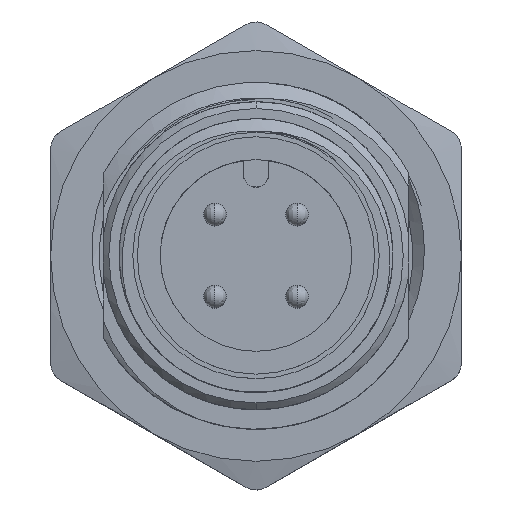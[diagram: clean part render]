
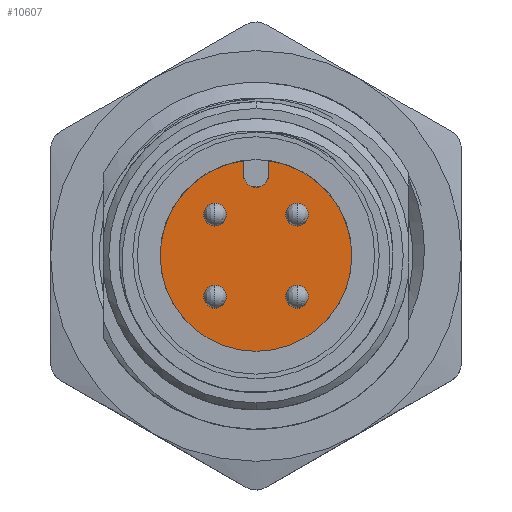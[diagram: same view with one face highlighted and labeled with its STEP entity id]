
A CAD part, top view. The second image highlights one B-rep face of the part: STEP entity #10607.
In plain terms, the highlighted planar face has unit normal (0, 0, 1).
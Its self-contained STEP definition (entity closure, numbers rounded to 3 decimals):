
#25 = VERTEX_POINT ( 'NONE', #22994 ) ;
#81 = CIRCLE ( 'NONE', #12843, 4.2 ) ;
#483 = VECTOR ( 'NONE', #19175, 1000. ) ;
#708 = VERTEX_POINT ( 'NONE', #14705 ) ;
#967 = ORIENTED_EDGE ( 'NONE', *, *, #20445, .T. ) ;
#1087 = DIRECTION ( 'NONE',  ( -1., 0., 0. ) ) ;
#1120 = CARTESIAN_POINT ( 'NONE',  ( 1.8, -2.3, -9. ) ) ;
#1404 = ORIENTED_EDGE ( 'NONE', *, *, #20775, .T. ) ;
#1571 = FACE_BOUND ( 'NONE', #20548, .T. ) ;
#1851 = AXIS2_PLACEMENT_3D ( 'NONE', #11173, #15056, #12857 ) ;
#1947 = DIRECTION ( 'NONE',  ( 1., 0., 0. ) ) ;
#2180 = AXIS2_PLACEMENT_3D ( 'NONE', #21451, #19386, #19646 ) ;
#2327 = CARTESIAN_POINT ( 'NONE',  ( -1.8, 1.8, -9. ) ) ;
#2399 = ORIENTED_EDGE ( 'NONE', *, *, #9823, .T. ) ;
#2737 = DIRECTION ( 'NONE',  ( 1., 0., 0. ) ) ;
#2913 = EDGE_LOOP ( 'NONE', ( #967, #18720, #7386, #1404, #23519 ) ) ;
#3146 = VERTEX_POINT ( 'NONE', #1120 ) ;
#3384 = CARTESIAN_POINT ( 'NONE',  ( 0., 3.55, -9. ) ) ;
#3487 = CARTESIAN_POINT ( 'NONE',  ( 0.55, 4.164, -9. ) ) ;
#3918 = DIRECTION ( 'NONE',  ( -1., 0., 0. ) ) ;
#3919 = CIRCLE ( 'NONE', #21627, 0.5 ) ;
#4378 = EDGE_CURVE ( 'NONE', #22878, #3146, #3919, .T. ) ;
#4688 = VERTEX_POINT ( 'NONE', #5061 ) ;
#5057 = CIRCLE ( 'NONE', #5879, 0.5 ) ;
#5061 = CARTESIAN_POINT ( 'NONE',  ( 1.8, 2.3, -9. ) ) ;
#5079 = AXIS2_PLACEMENT_3D ( 'NONE', #2327, #22186, #24247 ) ;
#5142 = CIRCLE ( 'NONE', #1851, 0.5 ) ;
#5383 = CARTESIAN_POINT ( 'NONE',  ( 0., -4.2, -9. ) ) ;
#5521 = ORIENTED_EDGE ( 'NONE', *, *, #21597, .T. ) ;
#5879 = AXIS2_PLACEMENT_3D ( 'NONE', #6408, #8344, #1087 ) ;
#6408 = CARTESIAN_POINT ( 'NONE',  ( -1.8, -1.8, -9. ) ) ;
#6589 = EDGE_LOOP ( 'NONE', ( #22845, #14228 ) ) ;
#6905 = CIRCLE ( 'NONE', #7319, 0.5 ) ;
#7243 = CARTESIAN_POINT ( 'NONE',  ( 0., 0., -9. ) ) ;
#7319 = AXIS2_PLACEMENT_3D ( 'NONE', #8473, #20460, #8601 ) ;
#7386 = ORIENTED_EDGE ( 'NONE', *, *, #10430, .T. ) ;
#7568 = LINE ( 'NONE', #20980, #483 ) ;
#7587 = VERTEX_POINT ( 'NONE', #23836 ) ;
#7786 = CARTESIAN_POINT ( 'NONE',  ( 1.8, -1.8, -9. ) ) ;
#8025 = VERTEX_POINT ( 'NONE', #5383 ) ;
#8344 = DIRECTION ( 'NONE',  ( 0., 0., -1. ) ) ;
#8473 = CARTESIAN_POINT ( 'NONE',  ( -1.8, -1.8, -9. ) ) ;
#8601 = DIRECTION ( 'NONE',  ( -1., 0., 0. ) ) ;
#8715 = CIRCLE ( 'NONE', #12018, 0.55 ) ;
#8991 = CARTESIAN_POINT ( 'NONE',  ( 1.8, 1.8, -9. ) ) ;
#9218 = VERTEX_POINT ( 'NONE', #12061 ) ;
#9452 = CARTESIAN_POINT ( 'NONE',  ( 1.8, 1.8, -9. ) ) ;
#9560 = DIRECTION ( 'NONE',  ( 0., 0., -1. ) ) ;
#9823 = EDGE_CURVE ( 'NONE', #4688, #22043, #23124, .T. ) ;
#10280 = CARTESIAN_POINT ( 'NONE',  ( -0.55, 4.164, -9. ) ) ;
#10430 = EDGE_CURVE ( 'NONE', #21839, #8025, #25165, .T. ) ;
#10607 = ADVANCED_FACE ( 'NONE', ( #23102, #1571, #23601, #13301, #21036 ), #11237, .T. ) ;
#10763 = AXIS2_PLACEMENT_3D ( 'NONE', #19230, #13678, #1947 ) ;
#11070 = ORIENTED_EDGE ( 'NONE', *, *, #23250, .T. ) ;
#11173 = CARTESIAN_POINT ( 'NONE',  ( -1.8, 1.8, -9. ) ) ;
#11237 = PLANE ( 'NONE',  #10763 ) ;
#11393 = DIRECTION ( 'NONE',  ( -1., 0., 0. ) ) ;
#11627 = DIRECTION ( 'NONE',  ( 1., 0., 0. ) ) ;
#11669 = AXIS2_PLACEMENT_3D ( 'NONE', #9452, #17199, #11393 ) ;
#12018 = AXIS2_PLACEMENT_3D ( 'NONE', #3384, #9560, #11627 ) ;
#12061 = CARTESIAN_POINT ( 'NONE',  ( -0.55, 3.55, -9. ) ) ;
#12173 = VERTEX_POINT ( 'NONE', #17981 ) ;
#12460 = ORIENTED_EDGE ( 'NONE', *, *, #15651, .T. ) ;
#12843 = AXIS2_PLACEMENT_3D ( 'NONE', #15218, #23080, #13277 ) ;
#12857 = DIRECTION ( 'NONE',  ( -1., 0., 0. ) ) ;
#13175 = DIRECTION ( 'NONE',  ( 0., 0., 1. ) ) ;
#13277 = DIRECTION ( 'NONE',  ( 1., 0., 0. ) ) ;
#13301 = FACE_BOUND ( 'NONE', #6589, .T. ) ;
#13678 = DIRECTION ( 'NONE',  ( 0., 0., 1. ) ) ;
#14043 = AXIS2_PLACEMENT_3D ( 'NONE', #7243, #13175, #2737 ) ;
#14228 = ORIENTED_EDGE ( 'NONE', *, *, #19572, .T. ) ;
#14279 = CARTESIAN_POINT ( 'NONE',  ( 0.55, 0., -9. ) ) ;
#14705 = CARTESIAN_POINT ( 'NONE',  ( -1.8, -2.3, -9. ) ) ;
#15023 = LINE ( 'NONE', #14279, #23986 ) ;
#15056 = DIRECTION ( 'NONE',  ( 0., 0., -1. ) ) ;
#15218 = CARTESIAN_POINT ( 'NONE',  ( 0., 0., -9. ) ) ;
#15428 = EDGE_CURVE ( 'NONE', #708, #12173, #6905, .T. ) ;
#15519 = ORIENTED_EDGE ( 'NONE', *, *, #15428, .T. ) ;
#15651 = EDGE_CURVE ( 'NONE', #7587, #23841, #5142, .T. ) ;
#15699 = AXIS2_PLACEMENT_3D ( 'NONE', #8991, #16734, #16862 ) ;
#16499 = CARTESIAN_POINT ( 'NONE',  ( -1.8, 1.3, -9. ) ) ;
#16734 = DIRECTION ( 'NONE',  ( 0., 0., -1. ) ) ;
#16862 = DIRECTION ( 'NONE',  ( -1., 0., 0. ) ) ;
#17199 = DIRECTION ( 'NONE',  ( 0., 0., -1. ) ) ;
#17325 = VERTEX_POINT ( 'NONE', #3487 ) ;
#17981 = CARTESIAN_POINT ( 'NONE',  ( -1.8, -1.3, -9. ) ) ;
#18243 = EDGE_LOOP ( 'NONE', ( #19730, #15519 ) ) ;
#18720 = ORIENTED_EDGE ( 'NONE', *, *, #21035, .T. ) ;
#19175 = DIRECTION ( 'NONE',  ( 0., 1., 0. ) ) ;
#19230 = CARTESIAN_POINT ( 'NONE',  ( 0., 0., -9. ) ) ;
#19374 = EDGE_CURVE ( 'NONE', #12173, #708, #5057, .T. ) ;
#19386 = DIRECTION ( 'NONE',  ( 0., 0., -1. ) ) ;
#19424 = EDGE_CURVE ( 'NONE', #17325, #25, #15023, .T. ) ;
#19516 = DIRECTION ( 'NONE',  ( 0., 0., -1. ) ) ;
#19572 = EDGE_CURVE ( 'NONE', #3146, #22878, #21125, .T. ) ;
#19646 = DIRECTION ( 'NONE',  ( -1., 0., 0. ) ) ;
#19730 = ORIENTED_EDGE ( 'NONE', *, *, #19374, .T. ) ;
#20014 = CARTESIAN_POINT ( 'NONE',  ( 1.8, -1.3, -9. ) ) ;
#20445 = EDGE_CURVE ( 'NONE', #25, #9218, #8715, .T. ) ;
#20460 = DIRECTION ( 'NONE',  ( 0., 0., -1. ) ) ;
#20548 = EDGE_LOOP ( 'NONE', ( #11070, #2399 ) ) ;
#20775 = EDGE_CURVE ( 'NONE', #8025, #17325, #81, .T. ) ;
#20980 = CARTESIAN_POINT ( 'NONE',  ( -0.55, 0., -9. ) ) ;
#21035 = EDGE_CURVE ( 'NONE', #9218, #21839, #7568, .T. ) ;
#21036 = FACE_OUTER_BOUND ( 'NONE', #2913, .T. ) ;
#21125 = CIRCLE ( 'NONE', #2180, 0.5 ) ;
#21451 = CARTESIAN_POINT ( 'NONE',  ( 1.8, -1.8, -9. ) ) ;
#21597 = EDGE_CURVE ( 'NONE', #23841, #7587, #25277, .T. ) ;
#21627 = AXIS2_PLACEMENT_3D ( 'NONE', #7786, #19516, #3918 ) ;
#21839 = VERTEX_POINT ( 'NONE', #10280 ) ;
#22043 = VERTEX_POINT ( 'NONE', #22416 ) ;
#22186 = DIRECTION ( 'NONE',  ( 0., 0., -1. ) ) ;
#22416 = CARTESIAN_POINT ( 'NONE',  ( 1.8, 1.3, -9. ) ) ;
#22790 = CIRCLE ( 'NONE', #11669, 0.5 ) ;
#22845 = ORIENTED_EDGE ( 'NONE', *, *, #4378, .T. ) ;
#22878 = VERTEX_POINT ( 'NONE', #20014 ) ;
#22885 = DIRECTION ( 'NONE',  ( 0., -1., 0. ) ) ;
#22994 = CARTESIAN_POINT ( 'NONE',  ( 0.55, 3.55, -9. ) ) ;
#23080 = DIRECTION ( 'NONE',  ( 0., 0., 1. ) ) ;
#23102 = FACE_BOUND ( 'NONE', #25183, .T. ) ;
#23124 = CIRCLE ( 'NONE', #15699, 0.5 ) ;
#23250 = EDGE_CURVE ( 'NONE', #22043, #4688, #22790, .T. ) ;
#23519 = ORIENTED_EDGE ( 'NONE', *, *, #19424, .T. ) ;
#23601 = FACE_BOUND ( 'NONE', #18243, .T. ) ;
#23836 = CARTESIAN_POINT ( 'NONE',  ( -1.8, 2.3, -9. ) ) ;
#23841 = VERTEX_POINT ( 'NONE', #16499 ) ;
#23986 = VECTOR ( 'NONE', #22885, 1000. ) ;
#24247 = DIRECTION ( 'NONE',  ( -1., 0., 0. ) ) ;
#25165 = CIRCLE ( 'NONE', #14043, 4.2 ) ;
#25183 = EDGE_LOOP ( 'NONE', ( #5521, #12460 ) ) ;
#25277 = CIRCLE ( 'NONE', #5079, 0.5 ) ;
